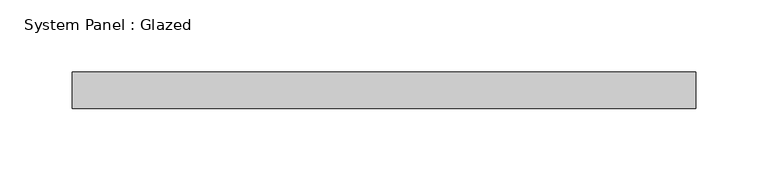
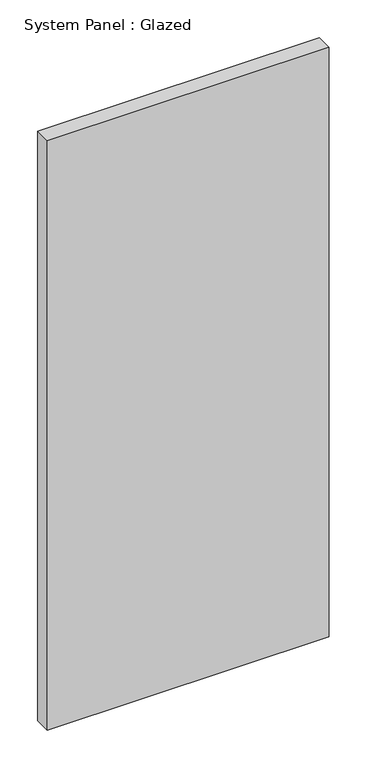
"""IFC4 building model written with IfcOpenShell, lengths in millimetres: plate geometry, System Panel : Glazed."""

from ifc_helpers import new_model, si_unit, origin, origin_with_axes, place, context, project, spatial, polyline, outline, extrude, source, transform, mapped, element, save


def system_panel_glazed_453545d8(model_context):
    return source(origin(), model_context, "Body", "SweptSolid", [
        extrude(outline(polyline([(215.0, 24.5), (-215.0, 24.5), (-215.0, 49.5), (215.0, 49.5), (215.0, 24.5)])), origin_with_axes(), (0.0, 0.0, 1.0), 950.0),
    ])


if __name__ == "__main__":
    model = new_model("IFC4")
    model_context = context("Model", 3, world=origin())
    ifc_project = project(units=[si_unit("LENGTHUNIT", "METRE", prefix="MILLI")], contexts=[model_context])
    site = spatial("IfcSite", under=ifc_project)
    building = spatial("IfcBuilding", under=site)
    placement = place(None, origin())
    system_panel_glazed_shape = system_panel_glazed_453545d8(model_context)
    element("IfcPlate", 1, ObjectType="System Panel : Glazed", at=placement, inside=building, context=model_context, shape_type="MappedRepresentation", body=[
        mapped(system_panel_glazed_shape, transform((0.0, 0.0, 0.0), x_axis=(1.0, 0.0, 0.0), y_axis=(0.0, 1.0, 0.0), z_axis=(0.0, 0.0, 1.0))),
    ])
    save(model, "model.ifc")
